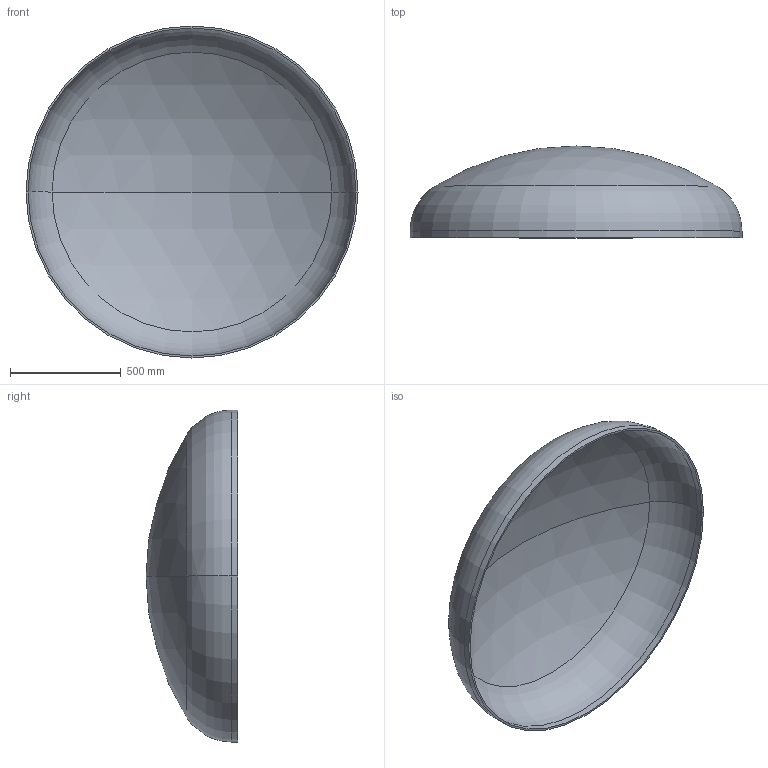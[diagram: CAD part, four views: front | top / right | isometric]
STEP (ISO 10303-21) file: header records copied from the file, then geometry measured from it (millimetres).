
FILE_DESCRIPTION (( 'STEP AP203' ), '1' );
FILE_NAME ('DIN 28013 Korbbogenform_-_Boden DIN 28013 - 1500 x 30 - I - s=9.step', '2016-07-01T10:34:58', ( '' ), ( '' ), 'SwSTEP 2.0', 'SolidWorks 2013', '' );
FILE_SCHEMA (( 'CONFIG_CONTROL_DESIGN' ));
Length unit declared in the file: millimetre
Products named in the file (1): DIN 28013 Korbbogenform_-_Boden DIN 28013 - 1500 x 30 - I - s=9
Bounding box: 1500 x 414.51 x 1500 mm (x, y, z)
Volume: 23099951.1 mm3; surface area: 5175647.1 mm2
Topology: 1 solids, 1 shells, 13 faces, 24 edges, 14 vertices
Faces by surface type: torus 4, cylinder 4, sphere 4, plane 1
Entity records: 407 total; most frequent: DIRECTION 72, CARTESIAN_POINT 52, ORIENTED_EDGE 48, AXIS2_PLACEMENT_3D 34, EDGE_CURVE 24, CIRCLE 20, EDGE_LOOP 14, VERTEX_POINT 14
